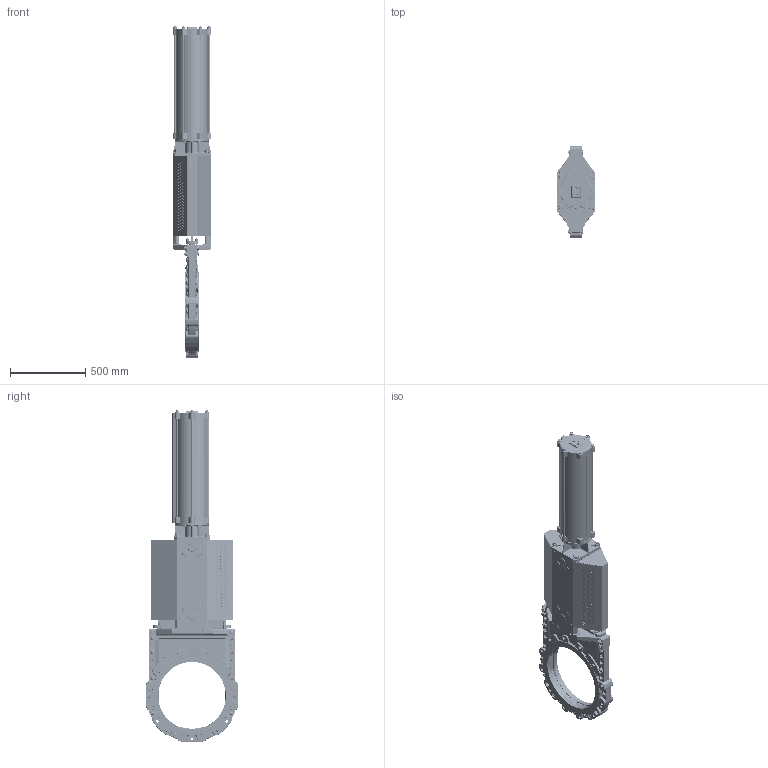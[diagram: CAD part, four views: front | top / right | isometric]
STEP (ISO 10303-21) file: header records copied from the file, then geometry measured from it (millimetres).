
FILE_DESCRIPTION(/* description */ (''),/* implementation_level */ '2;1');
FILE_NAME(/* name */ 'F:\Emir\3D-block special\WB\WB14E-WEE-DN450-ANSI150-FRSC200-550.stp',/* time_stamp */ '2018-06-21T08:20:30+02:00',/* author */ ('emimus'),/* organization */ (''),/* preprocessor_version */ 'ST-DEVELOPER v17',/* originating_system */ 'Autodesk Inventor 2018',/* authorisation */ '');
FILE_SCHEMA (('CONFIG_CONTROL_DESIGN'));
Products named in the file (1): WB14E-WEE-DN450-ANSI150-FRSC200-550
Bounding box: 257.51 x 614.75 x 2205.38 mm (x, y, z)
Volume: 35782660.6 mm3; surface area: 6553218.1 mm2
Topology: 1 solids, 1 shells, 5872 faces, 15326 edges, 9862 vertices
Faces by surface type: plane 2600, cylinder 1461, bspline 770, cone 483, torus 394, sphere 164
Full cylindrical faces by diameter (mm): 3.7 x8, 4 x2, 4.2 x8, 4.3 x2, 4.5 x12, 4.917 x15, 5 x2, 6 x1, 6.4 x1, 6.647 x4, 7 x9, 7.5 x4, 8.376 x4, 8.88 x1, 9.5 x2, 10 x9, 10.106 x4, 11 x4, 12 x29, 13 x16, 15 x1, 16 x23, 17 x6, 17.294 x4, 17.5 x4, 18 x2, 18.631 x2, 20 x8, 20.752 x24, 21 x8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
Entity records: 198819 total; most frequent: CARTESIAN_POINT 57434, ORIENTED_EDGE 30572, DIRECTION 28308, EDGE_CURVE 15286, AXIS2_PLACEMENT_3D 10630, VERTEX_POINT 9858, LINE 7048, VECTOR 7048
